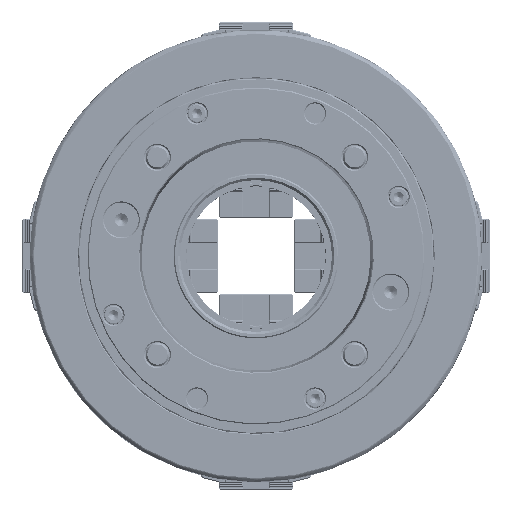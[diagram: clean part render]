
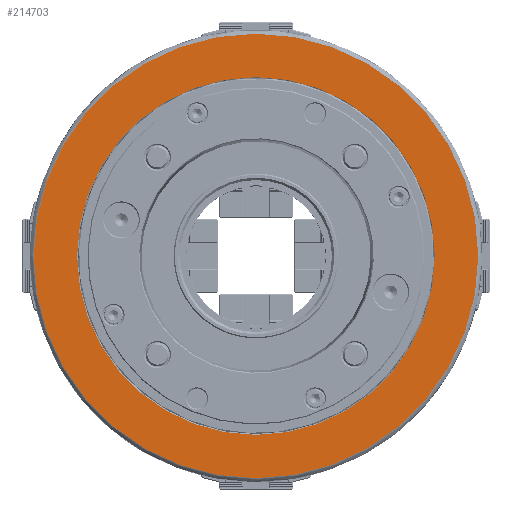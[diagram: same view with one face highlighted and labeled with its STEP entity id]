
A CAD part, front view. The second image highlights one B-rep face of the part: STEP entity #214703.
In plain terms, the highlighted planar face has unit normal (0, -1, 0).
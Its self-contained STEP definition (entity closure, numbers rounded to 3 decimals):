
#61582=PLANE('',#230793);
#62970=FACE_BOUND('',#81872,.T.);
#71505=FACE_OUTER_BOUND('',#81871,.T.);
#81871=EDGE_LOOP('',(#194652));
#81872=EDGE_LOOP('',(#194653));
#84863=CIRCLE('',#230794,187.294);
#84864=CIRCLE('',#230795,150.721);
#103459=VERTEX_POINT('',#348913);
#103460=VERTEX_POINT('',#348915);
#134477=EDGE_CURVE('',#103459,#103459,#84863,.T.);
#134478=EDGE_CURVE('',#103460,#103460,#84864,.T.);
#194652=ORIENTED_EDGE('',*,*,#134477,.T.);
#194653=ORIENTED_EDGE('',*,*,#134478,.T.);
#214703=ADVANCED_FACE('',(#71505,#62970),#61582,.T.);
#230793=AXIS2_PLACEMENT_3D('',#348912,#282942,#282943);
#230794=AXIS2_PLACEMENT_3D('',#348914,#282944,#282945);
#230795=AXIS2_PLACEMENT_3D('',#348916,#282946,#282947);
#282942=DIRECTION('center_axis',(0.,-1.,0.));
#282943=DIRECTION('ref_axis',(0.,0.,-1.));
#282944=DIRECTION('center_axis',(0.,-1.,0.));
#282945=DIRECTION('ref_axis',(0.,0.,1.));
#282946=DIRECTION('center_axis',(0.,1.,0.));
#282947=DIRECTION('ref_axis',(0.,0.,-1.));
#348912=CARTESIAN_POINT('Origin',(190.5,0.,0.));
#348913=CARTESIAN_POINT('',(0.,0.,-187.294));
#348914=CARTESIAN_POINT('Origin',(0.,0.,0.));
#348915=CARTESIAN_POINT('',(0.,0.,150.721));
#348916=CARTESIAN_POINT('Origin',(0.,0.,0.));
